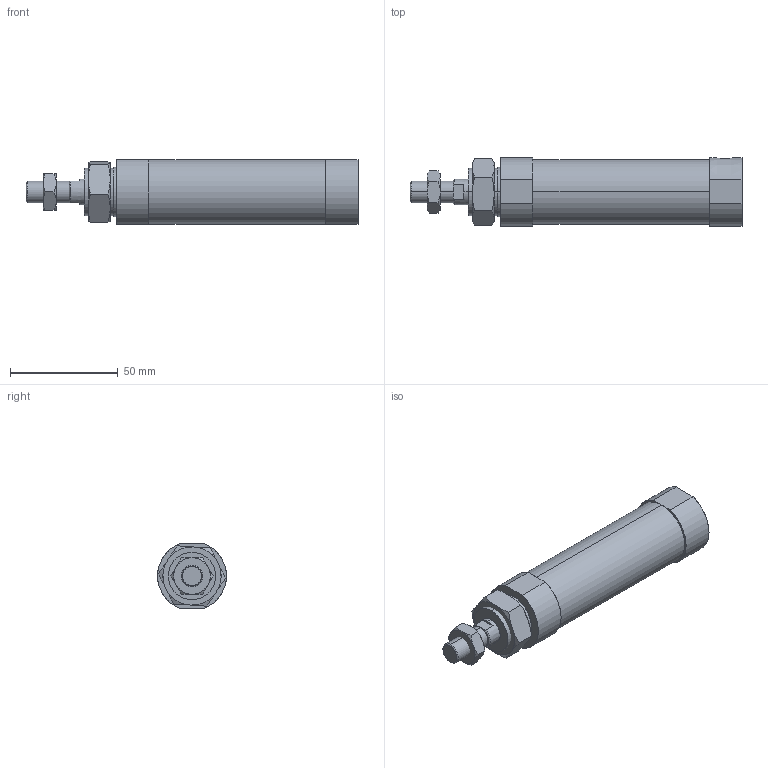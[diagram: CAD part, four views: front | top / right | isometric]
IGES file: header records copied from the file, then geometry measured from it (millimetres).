
Start section: SolidWorks IGES file using analytic representation for surfaces
Global section: file name: C:\Users\Toshiba\Desktop\JGND1-25-25-N.IGS; native system: SolidWorks 2014; preprocessor: SolidWorks 2014; author: Toshiba; date: 160804.101627; units: millimetre
Bounding box: 154 x 32 x 30 mm (x, y, z)
Surface area: 18022.4 mm2 (no closed solid volume)
Topology: 0 solids, 0 shells, 85 faces, 1510 edges, 1508 vertices
Faces by surface type: bspline 59, revolution 26
